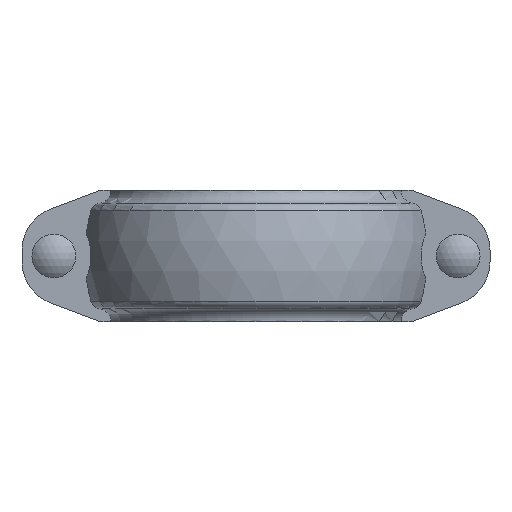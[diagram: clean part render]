
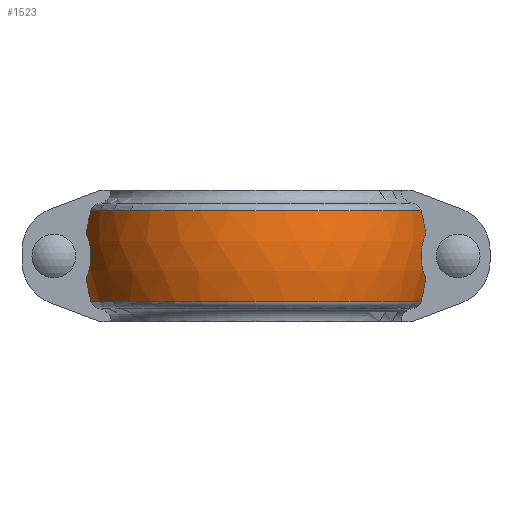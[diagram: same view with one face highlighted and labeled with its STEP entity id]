
A CAD part, front view. The second image highlights one B-rep face of the part: STEP entity #1523.
In plain terms, the highlighted spherical face has radius 76.2 mm.
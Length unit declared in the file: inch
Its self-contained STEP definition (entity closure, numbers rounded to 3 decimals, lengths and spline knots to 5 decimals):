
#62=B_SPLINE_CURVE_WITH_KNOTS('',3,(#2513,#2514,#2515,#2516,#2517,#2518,
#2519,#2520,#2521,#2522),.UNSPECIFIED.,.F.,.F.,(4,2,2,2,4),(0.98167,
1.2932,1.72426,1.95421,2.14754),
 .UNSPECIFIED.);
#63=B_SPLINE_CURVE_WITH_KNOTS('',3,(#2534,#2535,#2536,#2537,#2538,#2539,
#2540,#2541,#2542,#2543),.UNSPECIFIED.,.F.,.F.,(4,2,2,2,4),(2.22076,
2.4141,2.64404,3.07511,3.38664),
 .UNSPECIFIED.);
#68=B_SPLINE_CURVE_WITH_KNOTS('',3,(#2641,#2642,#2643,#2644,#2645,#2646,
#2647,#2648,#2649,#2650),.UNSPECIFIED.,.F.,.F.,(4,2,2,2,4),(0.98167,
1.2932,1.72426,1.95421,2.14754),
 .UNSPECIFIED.);
#69=B_SPLINE_CURVE_WITH_KNOTS('',3,(#2654,#2655,#2656,#2657,#2658,#2659,
#2660,#2661,#2662,#2663),.UNSPECIFIED.,.F.,.F.,(4,2,2,2,4),(2.22076,
2.4141,2.64404,3.07511,3.38664),
 .UNSPECIFIED.);
#81=SPHERICAL_SURFACE('',#1664,3.);
#174=FACE_OUTER_BOUND('',#259,.T.);
#259=EDGE_LOOP('',(#1145,#1146,#1147,#1148,#1149,#1150,#1151,#1152,#1153,
#1154,#1155,#1156));
#561=CIRCLE('',#1656,0.99554);
#563=CIRCLE('',#1660,2.92627);
#566=CIRCLE('',#1663,2.92627);
#567=CIRCLE('',#1665,2.89769);
#568=CIRCLE('',#1666,2.92627);
#569=CIRCLE('',#1667,0.99554);
#570=CIRCLE('',#1668,2.92627);
#571=CIRCLE('',#1669,2.89769);
#678=VERTEX_POINT('',#2511);
#679=VERTEX_POINT('',#2512);
#681=VERTEX_POINT('',#2527);
#683=VERTEX_POINT('',#2533);
#684=VERTEX_POINT('',#2546);
#695=VERTEX_POINT('',#2617);
#696=VERTEX_POINT('',#2636);
#697=VERTEX_POINT('',#2638);
#698=VERTEX_POINT('',#2640);
#699=VERTEX_POINT('',#2651);
#700=VERTEX_POINT('',#2653);
#701=VERTEX_POINT('',#2664);
#843=EDGE_CURVE('',#678,#679,#62,.T.);
#846=EDGE_CURVE('',#679,#681,#561,.T.);
#849=EDGE_CURVE('',#681,#683,#63,.T.);
#851=EDGE_CURVE('',#684,#678,#563,.T.);
#863=EDGE_CURVE('',#683,#695,#566,.T.);
#864=EDGE_CURVE('',#695,#696,#567,.T.);
#865=EDGE_CURVE('',#696,#697,#568,.T.);
#866=EDGE_CURVE('',#697,#698,#68,.T.);
#867=EDGE_CURVE('',#698,#699,#569,.T.);
#868=EDGE_CURVE('',#699,#700,#69,.T.);
#869=EDGE_CURVE('',#700,#701,#570,.T.);
#870=EDGE_CURVE('',#684,#701,#571,.T.);
#1145=ORIENTED_EDGE('',*,*,#843,.T.);
#1146=ORIENTED_EDGE('',*,*,#846,.T.);
#1147=ORIENTED_EDGE('',*,*,#849,.T.);
#1148=ORIENTED_EDGE('',*,*,#863,.T.);
#1149=ORIENTED_EDGE('',*,*,#864,.T.);
#1150=ORIENTED_EDGE('',*,*,#865,.T.);
#1151=ORIENTED_EDGE('',*,*,#866,.T.);
#1152=ORIENTED_EDGE('',*,*,#867,.T.);
#1153=ORIENTED_EDGE('',*,*,#868,.T.);
#1154=ORIENTED_EDGE('',*,*,#869,.T.);
#1155=ORIENTED_EDGE('',*,*,#870,.F.);
#1156=ORIENTED_EDGE('',*,*,#851,.T.);
#1523=ADVANCED_FACE('',(#174),#81,.T.);
#1656=AXIS2_PLACEMENT_3D('',#2528,#1951,#1952);
#1660=AXIS2_PLACEMENT_3D('',#2547,#1961,#1962);
#1663=AXIS2_PLACEMENT_3D('',#2634,#1972,#1973);
#1664=AXIS2_PLACEMENT_3D('',#2635,#1974,#1975);
#1665=AXIS2_PLACEMENT_3D('',#2637,#1976,#1977);
#1666=AXIS2_PLACEMENT_3D('',#2639,#1978,#1979);
#1667=AXIS2_PLACEMENT_3D('',#2652,#1980,#1981);
#1668=AXIS2_PLACEMENT_3D('',#2665,#1982,#1983);
#1669=AXIS2_PLACEMENT_3D('',#2666,#1984,#1985);
#1951=DIRECTION('center_axis',(-1.,0.,0.));
#1952=DIRECTION('ref_axis',(0.,0.,1.));
#1961=DIRECTION('center_axis',(0.,-1.,0.));
#1962=DIRECTION('ref_axis',(0.,0.,-1.));
#1972=DIRECTION('center_axis',(0.,-1.,0.));
#1973=DIRECTION('ref_axis',(0.,0.,-1.));
#1974=DIRECTION('center_axis',(0.,0.,
1.));
#1975=DIRECTION('ref_axis',(-1.,0.,0.));
#1976=DIRECTION('center_axis',(0.,0.,-1.));
#1977=DIRECTION('ref_axis',(-1.,0.,0.));
#1978=DIRECTION('center_axis',(0.,-1.,0.));
#1979=DIRECTION('ref_axis',(0.,0.,-1.));
#1980=DIRECTION('center_axis',(1.,0.,0.));
#1981=DIRECTION('ref_axis',(0.,0.,-1.));
#1982=DIRECTION('center_axis',(0.,-1.,0.));
#1983=DIRECTION('ref_axis',(0.,0.,-1.));
#1984=DIRECTION('center_axis',(0.,0.,-1.));
#1985=DIRECTION('ref_axis',(-1.,0.,0.));
#2511=CARTESIAN_POINT('',(2.90251,-0.661,-0.37219));
#2512=CARTESIAN_POINT('',(2.83,-0.99232,-0.08));
#2513=CARTESIAN_POINT('Ctrl Pts',(2.90251,-0.661,-0.37219));
#2514=CARTESIAN_POINT('Ctrl Pts',(2.89516,-0.70109,-0.3583));
#2515=CARTESIAN_POINT('Ctrl Pts',(2.88741,-0.73985,-0.34242));
#2516=CARTESIAN_POINT('Ctrl Pts',(2.86877,-0.82728,-0.29848));
#2517=CARTESIAN_POINT('Ctrl Pts',(2.85775,-0.87426,-0.26852));
#2518=CARTESIAN_POINT('Ctrl Pts',(2.843,-0.93526,-0.20863));
#2519=CARTESIAN_POINT('Ctrl Pts',(2.83793,-0.95584,-0.1832));
#2520=CARTESIAN_POINT('Ctrl Pts',(2.83165,-0.98247,-0.13129));
#2521=CARTESIAN_POINT('Ctrl Pts',(2.83,-0.99026,-0.10554));
#2522=CARTESIAN_POINT('Ctrl Pts',(2.83,-0.99232,-0.08));
#2527=CARTESIAN_POINT('',(2.83,-0.99232,0.08));
#2528=CARTESIAN_POINT('Origin',(2.83,0.,0.));
#2533=CARTESIAN_POINT('',(2.90251,-0.661,0.37219));
#2534=CARTESIAN_POINT('Ctrl Pts',(2.83,-0.99232,0.08));
#2535=CARTESIAN_POINT('Ctrl Pts',(2.83,-0.99026,0.10554));
#2536=CARTESIAN_POINT('Ctrl Pts',(2.83165,-0.98247,0.13129));
#2537=CARTESIAN_POINT('Ctrl Pts',(2.83793,-0.95584,0.1832));
#2538=CARTESIAN_POINT('Ctrl Pts',(2.843,-0.93526,0.20863));
#2539=CARTESIAN_POINT('Ctrl Pts',(2.85775,-0.87426,0.26852));
#2540=CARTESIAN_POINT('Ctrl Pts',(2.86877,-0.82728,0.29848));
#2541=CARTESIAN_POINT('Ctrl Pts',(2.88741,-0.73985,0.34242));
#2542=CARTESIAN_POINT('Ctrl Pts',(2.89516,-0.70109,0.3583));
#2543=CARTESIAN_POINT('Ctrl Pts',(2.90251,-0.661,0.37219));
#2546=CARTESIAN_POINT('',(2.8213,-0.661,-0.77677));
#2547=CARTESIAN_POINT('Origin',(0.,-0.661,0.));
#2617=CARTESIAN_POINT('',(2.8213,-0.661,0.77677));
#2634=CARTESIAN_POINT('Origin',(0.,-0.661,0.));
#2635=CARTESIAN_POINT('Origin',(0.,0.,0.));
#2636=CARTESIAN_POINT('',(-2.8213,-0.661,0.77677));
#2637=CARTESIAN_POINT('Origin',(0.,0.,
0.77677));
#2638=CARTESIAN_POINT('',(-2.90251,-0.661,0.37219));
#2639=CARTESIAN_POINT('Origin',(0.,-0.661,0.));
#2640=CARTESIAN_POINT('',(-2.83,-0.99232,0.08));
#2641=CARTESIAN_POINT('Ctrl Pts',(-2.90251,-0.661,0.37219));
#2642=CARTESIAN_POINT('Ctrl Pts',(-2.89516,-0.70109,0.3583));
#2643=CARTESIAN_POINT('Ctrl Pts',(-2.88741,-0.73985,
0.34242));
#2644=CARTESIAN_POINT('Ctrl Pts',(-2.86877,-0.82728,
0.29848));
#2645=CARTESIAN_POINT('Ctrl Pts',(-2.85775,-0.87426,
0.26852));
#2646=CARTESIAN_POINT('Ctrl Pts',(-2.843,-0.93526,
0.20863));
#2647=CARTESIAN_POINT('Ctrl Pts',(-2.83793,-0.95584,
0.1832));
#2648=CARTESIAN_POINT('Ctrl Pts',(-2.83165,-0.98247,0.13129));
#2649=CARTESIAN_POINT('Ctrl Pts',(-2.83,-0.99026,0.10554));
#2650=CARTESIAN_POINT('Ctrl Pts',(-2.83,-0.99232,0.08));
#2651=CARTESIAN_POINT('',(-2.83,-0.99232,-0.08));
#2652=CARTESIAN_POINT('Origin',(-2.83,0.,0.));
#2653=CARTESIAN_POINT('',(-2.90251,-0.661,-0.37219));
#2654=CARTESIAN_POINT('Ctrl Pts',(-2.83,-0.99232,-0.08));
#2655=CARTESIAN_POINT('Ctrl Pts',(-2.83,-0.99026,-0.10554));
#2656=CARTESIAN_POINT('Ctrl Pts',(-2.83165,-0.98247,-0.13129));
#2657=CARTESIAN_POINT('Ctrl Pts',(-2.83793,-0.95584,
-0.1832));
#2658=CARTESIAN_POINT('Ctrl Pts',(-2.843,-0.93526,
-0.20863));
#2659=CARTESIAN_POINT('Ctrl Pts',(-2.85775,-0.87426,
-0.26852));
#2660=CARTESIAN_POINT('Ctrl Pts',(-2.86877,-0.82728,
-0.29848));
#2661=CARTESIAN_POINT('Ctrl Pts',(-2.88741,-0.73985,
-0.34242));
#2662=CARTESIAN_POINT('Ctrl Pts',(-2.89516,-0.70109,-0.3583));
#2663=CARTESIAN_POINT('Ctrl Pts',(-2.90251,-0.661,-0.37219));
#2664=CARTESIAN_POINT('',(-2.8213,-0.661,-0.77677));
#2665=CARTESIAN_POINT('Origin',(0.,-0.661,0.));
#2666=CARTESIAN_POINT('Origin',(0.,0.,
-0.77677));
